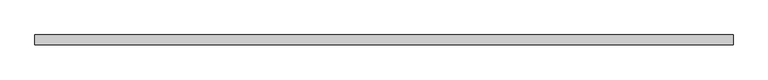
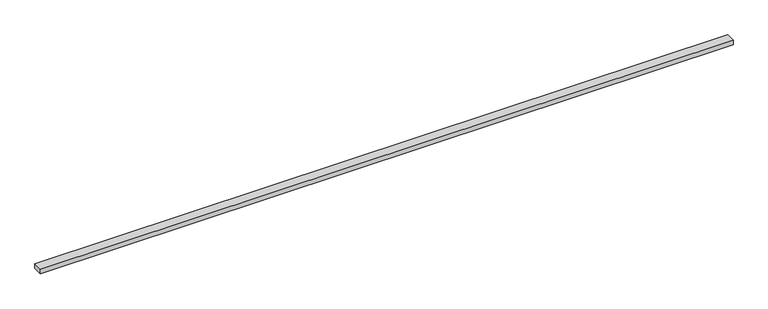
"""IFC4 building model written with IfcOpenShell, lengths in millimetres: beam geometry, Деревянный брус : 50х25."""

from ifc_helpers import new_model, si_unit, frame, origin, place, context, project, spatial, polyline, outline, extrude, source, transform, mapped, element, save


def beam_d9e12bf5(model_context):
    return source(origin(), model_context, "Body", "SweptSolid", [
        extrude(outline(polyline([(1800.0, 25.0), (1800.0, -25.0), (-1800.0, -25.0), (-1800.0, 25.0), (1800.0, 25.0)])), frame((0.0, 0.0, -12.5), z_axis=(0.0, 0.0, 1.0), x_axis=(1.0, 0.0, 0.0)), (0.0, 0.0, 1.0), 25.0),
    ])


if __name__ == "__main__":
    model = new_model("IFC4")
    model_context = context("Model", 3, world=origin())
    ifc_project = project(units=[si_unit("LENGTHUNIT", "METRE", prefix="MILLI")], contexts=[model_context])
    site = spatial("IfcSite", under=ifc_project)
    building = spatial("IfcBuilding", under=site)
    placement = place(None, origin())
    beam_shape = beam_d9e12bf5(model_context)
    element("IfcBeam", 1, ObjectType="Деревянный брус : 50х25", at=placement, inside=building, context=model_context, shape_type="MappedRepresentation", body=[
        mapped(beam_shape, transform((0.0, 0.0, 0.0), x_axis=(1.0, 0.0, 0.0), y_axis=(0.0, 1.0, 0.0), z_axis=(0.0, 0.0, 1.0))),
    ])
    save(model, "model.ifc")
